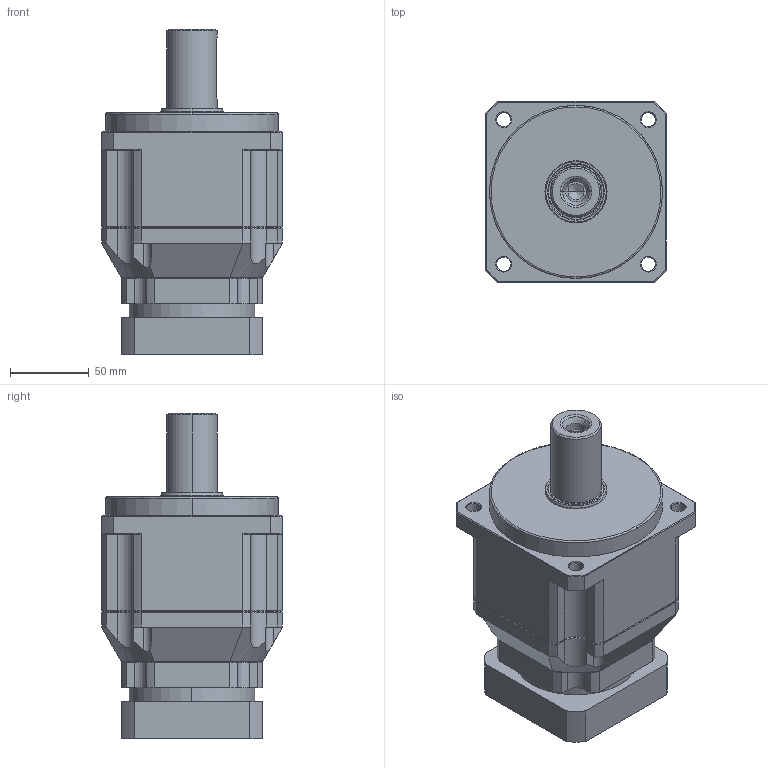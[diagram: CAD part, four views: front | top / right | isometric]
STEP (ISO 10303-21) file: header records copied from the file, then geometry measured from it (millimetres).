
FILE_DESCRIPTION (( 'STEP AP203' ), '1' );
FILE_NAME ('TB115-L2-19-95-130-M8-60.5-18.5.STEP', '2020-11-10T08:26:58', ( 'Windows 蚚誧' ), ( 'Microsoft' ), 'SwSTEP 2.0', 'SolidWorks 2017', '' );
FILE_SCHEMA (( 'CONFIG_CONTROL_DESIGN' ));
Length unit declared in the file: millimetre
Products named in the file (4): 19---14BJT; 煦极TB115-L2-19; 090-50-70-M4-42.5-3; TB115-L2-19-95-130-M8-60.5-18.5
Assembly tree (3 placements, depth 2):
  TB115-L2-19-95-130-M8-60.5-18.5
    煦极TB115-L2-19
    090-50-70-M4-42.5-3
    19---14BJT
Bounding box: 115 x 115 x 207 mm (x, y, z)
Volume: 1437136.4 mm3; surface area: 167656.4 mm2
Topology: 5 solids, 5 shells, 557 faces, 1376 edges, 838 vertices
Faces by surface type: cylinder 202, plane 185, cone 158, bspline 12
Entity records: 18834 total; most frequent: CARTESIAN_POINT 5182, DIRECTION 2866, ORIENTED_EDGE 2696, EDGE_CURVE 1348, AXIS2_PLACEMENT_3D 1122, VERTEX_POINT 838, EDGE_LOOP 650, LINE 622
